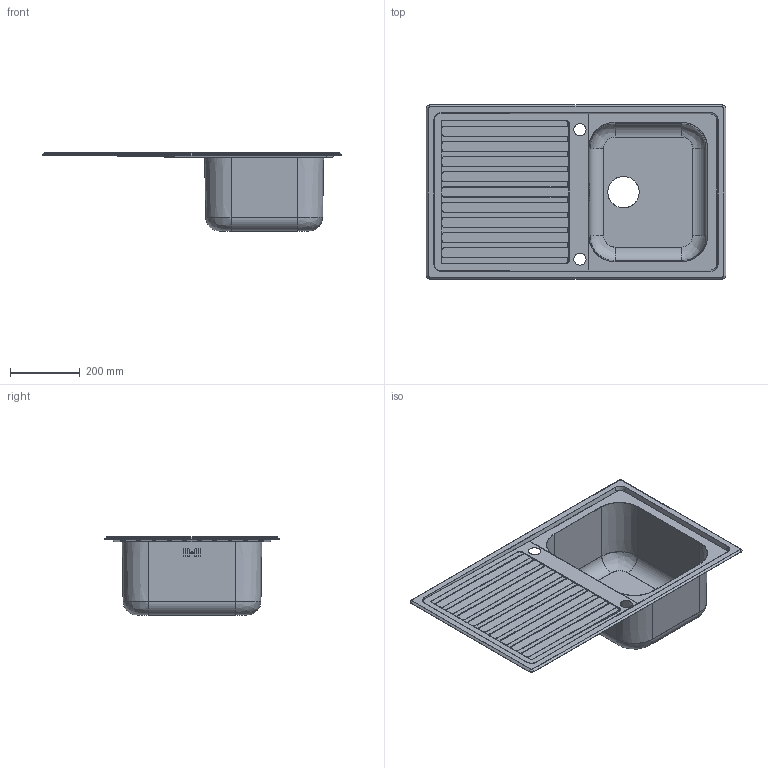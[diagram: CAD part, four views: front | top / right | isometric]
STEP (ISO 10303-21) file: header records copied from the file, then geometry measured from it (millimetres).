
FILE_DESCRIPTION(('CATIA V5 STEP Exchange'),'2;1');
FILE_NAME('C:\Users\linop\Desktop\LLR861-2.stp','2018-09-24T12:58:12+00:00',('none'),('none'),'CATIA Version 5-6 Release 2014','CATIA V5 STEP AP203','none');
FILE_SCHEMA(('CONFIG_CONTROL_DESIGN'));
Length unit declared in the file: millimetre
Products named in the file (1): LLR861-2
Bounding box: 860 x 500 x 224 mm (x, y, z)
Volume: 468797.6 mm3; surface area: 1440958.7 mm2
Topology: 2 solids, 2 shells, 275 faces, 767 edges, 500 vertices
Faces by surface type: plane 159, cylinder 84, cone 24, revolution 8
Entity records: 8835 total; most frequent: CARTESIAN_POINT 2244, ORIENTED_EDGE 1534, DIRECTION 1044, EDGE_CURVE 767, VECTOR 500, LINE 500, VERTEX_POINT 500, AXIS2_PLACEMENT_3D 332
